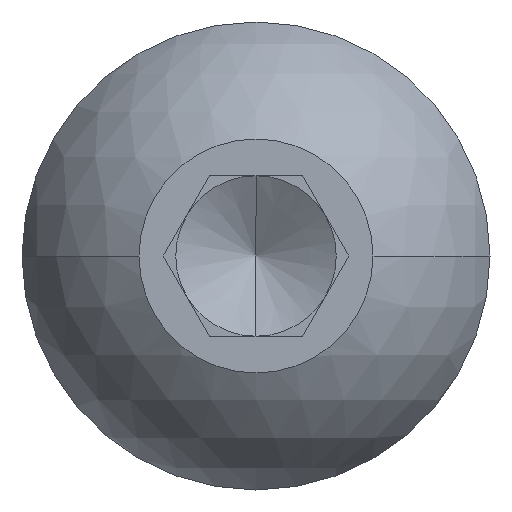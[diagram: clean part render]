
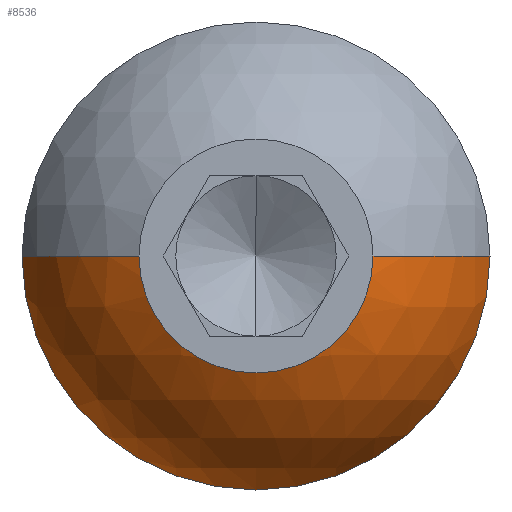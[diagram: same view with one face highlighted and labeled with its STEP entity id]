
A CAD part, left-side view. The second image highlights one B-rep face of the part: STEP entity #8536.
In plain terms, the highlighted spherical face has radius 9.265 mm.
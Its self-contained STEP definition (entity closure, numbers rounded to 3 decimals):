
#844 = VERTEX_POINT ( 'NONE', #7528 ) ;
#922 = CIRCLE ( 'NONE', #1650, 4.375 ) ;
#1056 = DIRECTION ( 'NONE',  ( 0., 0., -1. ) ) ;
#1265 = CARTESIAN_POINT ( 'NONE',  ( 8.168, 0., 0. ) ) ;
#1445 = EDGE_CURVE ( 'NONE', #844, #2121, #7543, .T. ) ;
#1650 = AXIS2_PLACEMENT_3D ( 'NONE', #7636, #4292, #3623 ) ;
#1680 = CIRCLE ( 'NONE', #2679, 9.266 ) ;
#1813 = EDGE_CURVE ( 'NONE', #2945, #844, #8404, .T. ) ;
#1874 = DIRECTION ( 'NONE',  ( 0., 1., 0. ) ) ;
#2121 = VERTEX_POINT ( 'NONE', #8806 ) ;
#2612 = EDGE_LOOP ( 'NONE', ( #6843, #7032, #7754, #7207, #6213 ) ) ;
#2679 = AXIS2_PLACEMENT_3D ( 'NONE', #1265, #6046, #8772 ) ;
#2945 = VERTEX_POINT ( 'NONE', #3797 ) ;
#3130 = CARTESIAN_POINT ( 'NONE',  ( 5.12, 0., 0. ) ) ;
#3147 = EDGE_CURVE ( 'NONE', #2121, #5404, #6935, .T. ) ;
#3564 = CARTESIAN_POINT ( 'NONE',  ( 5.12, 0., 0. ) ) ;
#3623 = DIRECTION ( 'NONE',  ( 0., 0., 1. ) ) ;
#3797 = CARTESIAN_POINT ( 'NONE',  ( 5.12, 8.75, 0. ) ) ;
#3831 = DIRECTION ( 'NONE',  ( 0., 0., 1. ) ) ;
#4292 = DIRECTION ( 'NONE',  ( -1., 0., 0. ) ) ;
#4549 = AXIS2_PLACEMENT_3D ( 'NONE', #3130, #7981, #3831 ) ;
#4570 = EDGE_CURVE ( 'NONE', #4826, #5404, #922, .T. ) ;
#4826 = VERTEX_POINT ( 'NONE', #7117 ) ;
#4961 = DIRECTION ( 'NONE',  ( -1., 0., 0. ) ) ;
#5404 = VERTEX_POINT ( 'NONE', #7284 ) ;
#5521 = AXIS2_PLACEMENT_3D ( 'NONE', #7924, #1056, #8607 ) ;
#5653 = AXIS2_PLACEMENT_3D ( 'NONE', #7268, #7918, #1874 ) ;
#5914 = EDGE_CURVE ( 'NONE', #2945, #4826, #1680, .T. ) ;
#6046 = DIRECTION ( 'NONE',  ( 0., 0., 1. ) ) ;
#6213 = ORIENTED_EDGE ( 'NONE', *, *, #5914, .F. ) ;
#6591 = FACE_OUTER_BOUND ( 'NONE', #2612, .T. ) ;
#6843 = ORIENTED_EDGE ( 'NONE', *, *, #1813, .T. ) ;
#6935 = CIRCLE ( 'NONE', #5521, 9.266 ) ;
#6952 = DIRECTION ( 'NONE',  ( 0., 0., 1. ) ) ;
#7032 = ORIENTED_EDGE ( 'NONE', *, *, #1445, .T. ) ;
#7117 = CARTESIAN_POINT ( 'NONE',  ( 0., 4.375, 0. ) ) ;
#7207 = ORIENTED_EDGE ( 'NONE', *, *, #4570, .F. ) ;
#7268 = CARTESIAN_POINT ( 'NONE',  ( 8.168, 0., 0. ) ) ;
#7284 = CARTESIAN_POINT ( 'NONE',  ( 0., -4.375, 0. ) ) ;
#7528 = CARTESIAN_POINT ( 'NONE',  ( 5.12, 0., -8.75 ) ) ;
#7543 = CIRCLE ( 'NONE', #4549, 8.75 ) ;
#7636 = CARTESIAN_POINT ( 'NONE',  ( 0., 0., 0. ) ) ;
#7754 = ORIENTED_EDGE ( 'NONE', *, *, #3147, .T. ) ;
#7918 = DIRECTION ( 'NONE',  ( 0., 0., -1. ) ) ;
#7924 = CARTESIAN_POINT ( 'NONE',  ( 8.168, 0., 0. ) ) ;
#7981 = DIRECTION ( 'NONE',  ( -1., 0., 0. ) ) ;
#8404 = CIRCLE ( 'NONE', #8825, 8.75 ) ;
#8536 = ADVANCED_FACE ( 'NONE', ( #6591 ), #8635, .T. ) ;
#8607 = DIRECTION ( 'NONE',  ( 0., 1., 0. ) ) ;
#8635 = SPHERICAL_SURFACE ( 'NONE', #5653, 9.266 ) ;
#8772 = DIRECTION ( 'NONE',  ( 1., 0., 0. ) ) ;
#8806 = CARTESIAN_POINT ( 'NONE',  ( 5.12, -8.75, 0. ) ) ;
#8825 = AXIS2_PLACEMENT_3D ( 'NONE', #3564, #4961, #6952 ) ;
